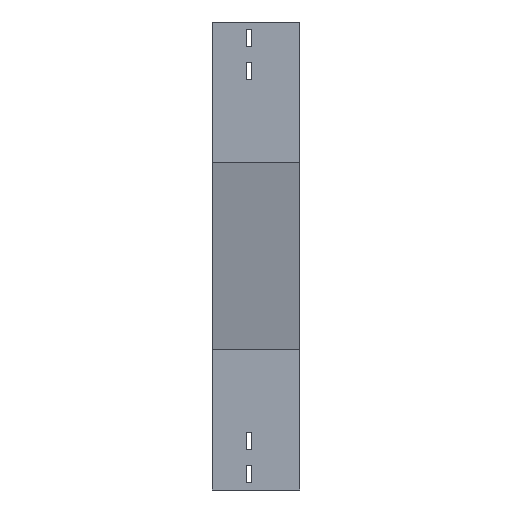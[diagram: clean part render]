
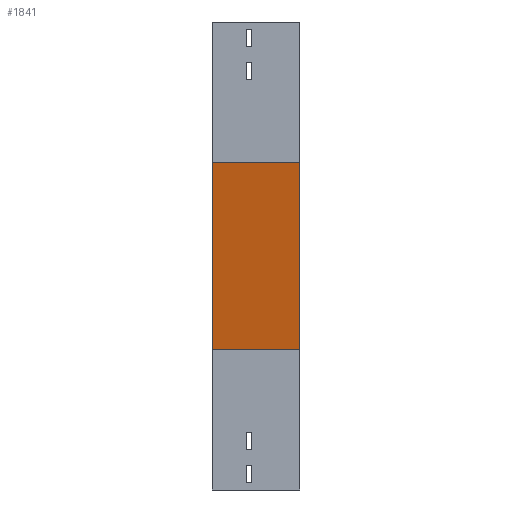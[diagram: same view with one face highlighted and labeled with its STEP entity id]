
A CAD part, left-side view. The second image highlights one B-rep face of the part: STEP entity #1841.
In plain terms, the highlighted planar face has unit normal (-0.979, 0, -0.204).
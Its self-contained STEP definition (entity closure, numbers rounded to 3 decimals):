
#13 = DIRECTION ( 'NONE',  ( 0.204, 0., -0.979 ) ) ;
#37 = CARTESIAN_POINT ( 'NONE',  ( 50., 112.5, -420. ) ) ;
#218 = DIRECTION ( 'NONE',  ( 0.979, 0., 0.204 ) ) ;
#295 = LINE ( 'NONE', #882, #1002 ) ;
#361 = ORIENTED_EDGE ( 'NONE', *, *, #2718, .F. ) ;
#536 = AXIS2_PLACEMENT_3D ( 'NONE', #617, #218, #3922 ) ;
#617 = CARTESIAN_POINT ( 'NONE',  ( 0., 0., -180. ) ) ;
#782 = CARTESIAN_POINT ( 'NONE',  ( 0., 0., -180. ) ) ;
#882 = CARTESIAN_POINT ( 'NONE',  ( 50., 0., -420. ) ) ;
#924 = CARTESIAN_POINT ( 'NONE',  ( 0., 112.5, -180. ) ) ;
#1002 = VECTOR ( 'NONE', #3097, 1000. ) ;
#1017 = VERTEX_POINT ( 'NONE', #782 ) ;
#1070 = EDGE_LOOP ( 'NONE', ( #2622, #361, #3881, #3439 ) ) ;
#1203 = EDGE_CURVE ( 'NONE', #2874, #2877, #2483, .T. ) ;
#1310 = VECTOR ( 'NONE', #2588, 1000. ) ;
#1344 = VECTOR ( 'NONE', #13, 1000. ) ;
#1369 = VECTOR ( 'NONE', #3673, 1000. ) ;
#1455 = VERTEX_POINT ( 'NONE', #1703 ) ;
#1703 = CARTESIAN_POINT ( 'NONE',  ( 50., 0., -420. ) ) ;
#1811 = CARTESIAN_POINT ( 'NONE',  ( 0., 112.5, -180. ) ) ;
#1841 = ADVANCED_FACE ( 'NONE', ( #3378 ), #1845, .F. ) ;
#1845 = PLANE ( 'NONE',  #536 ) ;
#2093 = EDGE_CURVE ( 'NONE', #1017, #1455, #3318, .T. ) ;
#2483 = LINE ( 'NONE', #1811, #1344 ) ;
#2588 = DIRECTION ( 'NONE',  ( 0., -1., 0. ) ) ;
#2622 = ORIENTED_EDGE ( 'NONE', *, *, #2093, .F. ) ;
#2718 = EDGE_CURVE ( 'NONE', #2874, #1017, #3184, .T. ) ;
#2874 = VERTEX_POINT ( 'NONE', #924 ) ;
#2877 = VERTEX_POINT ( 'NONE', #37 ) ;
#3097 = DIRECTION ( 'NONE',  ( 0., 1., 0. ) ) ;
#3184 = LINE ( 'NONE', #3245, #1310 ) ;
#3224 = EDGE_CURVE ( 'NONE', #1455, #2877, #295, .T. ) ;
#3245 = CARTESIAN_POINT ( 'NONE',  ( 0., 0., -180. ) ) ;
#3318 = LINE ( 'NONE', #3639, #1369 ) ;
#3378 = FACE_OUTER_BOUND ( 'NONE', #1070, .T. ) ;
#3439 = ORIENTED_EDGE ( 'NONE', *, *, #3224, .F. ) ;
#3639 = CARTESIAN_POINT ( 'NONE',  ( 0., 0., -180. ) ) ;
#3673 = DIRECTION ( 'NONE',  ( 0.204, 0., -0.979 ) ) ;
#3881 = ORIENTED_EDGE ( 'NONE', *, *, #1203, .T. ) ;
#3922 = DIRECTION ( 'NONE',  ( 0.204, 0., -0.979 ) ) ;
